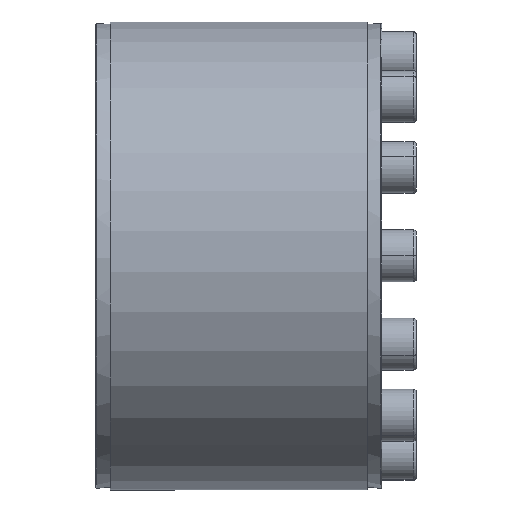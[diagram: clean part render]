
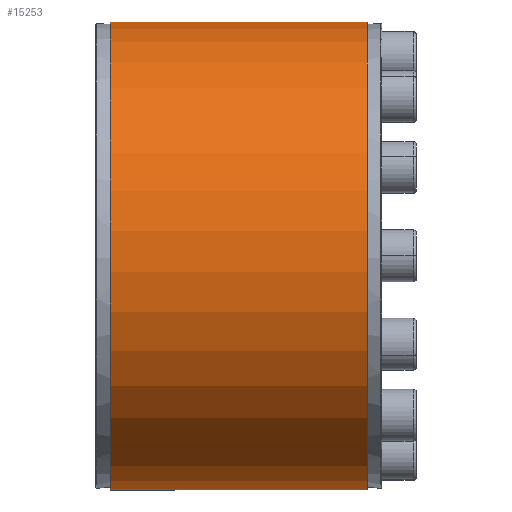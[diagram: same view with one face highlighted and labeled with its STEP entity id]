
A CAD part, front view. The second image highlights one B-rep face of the part: STEP entity #15253.
In plain terms, the highlighted cylindrical face has radius 95 mm (diameter 190 mm), a partial arc.
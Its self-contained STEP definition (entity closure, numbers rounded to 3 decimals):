
#14398=CARTESIAN_POINT('',(-52.,0.,0.));
#14399=DIRECTION('',(-1.,0.,0.));
#14400=DIRECTION('',(0.,0.975,0.223));
#14401=AXIS2_PLACEMENT_3D('',#14398,#14399,#14400);
#14406=DIRECTION('',(1.,0.,0.));
#14407=VECTOR('',#14406,104.);
#14408=CARTESIAN_POINT('',(-52.,91.824,24.359));
#14409=LINE('',#14408,#14407);
#14413=CARTESIAN_POINT('',(52.,0.,0.));
#14414=DIRECTION('',(1.,0.,0.));
#14415=DIRECTION('',(0.,0.967,0.256));
#14416=AXIS2_PLACEMENT_3D('',#14413,#14414,#14415);
#14421=DIRECTION('',(1.,0.,0.));
#14422=VECTOR('',#14421,104.);
#14423=CARTESIAN_POINT('',(-52.,92.618,21.139));
#14424=LINE('',#14423,#14422);
#14985=CARTESIAN_POINT('',(-52.,92.618,21.139));
#14987=VERTEX_POINT('',#14985);
#14989=CARTESIAN_POINT('',(-52.,91.824,24.359));
#14991=VERTEX_POINT('',#14989);
#15013=CARTESIAN_POINT('',(52.,92.618,21.139));
#15014=VERTEX_POINT('',#15013);
#15015=CARTESIAN_POINT('',(52.,91.824,24.359));
#15016=VERTEX_POINT('',#15015);
#15240=CARTESIAN_POINT('',(-57.2,0.,0.));
#15241=DIRECTION('',(1.,0.,0.));
#15242=DIRECTION('',(0.,-1.,0.));
#15243=AXIS2_PLACEMENT_3D('',#15240,#15241,#15242);
#15244=CYLINDRICAL_SURFACE('',#15243,95.);
#15246=ORIENTED_EDGE('',*,*,#15245,.T.);
#15248=ORIENTED_EDGE('',*,*,#15247,.T.);
#15249=ORIENTED_EDGE('',*,*,#15232,.T.);
#15250=ORIENTED_EDGE('',*,*,#15204,.F.);
#15251=EDGE_LOOP('',(#15246,#15248,#15249,#15250));
#15252=FACE_OUTER_BOUND('',#15251,.F.);
#15253=ADVANCED_FACE('',(#15252),#15244,.T.);
#14402=CIRCLE('',#14401,95.);
#14417=CIRCLE('',#14416,95.);
#15204=EDGE_CURVE('',#14987,#15014,#14424,.T.);
#15232=EDGE_CURVE('',#15016,#15014,#14417,.T.);
#15245=EDGE_CURVE('',#14987,#14991,#14402,.T.);
#15247=EDGE_CURVE('',#14991,#15016,#14409,.T.);
